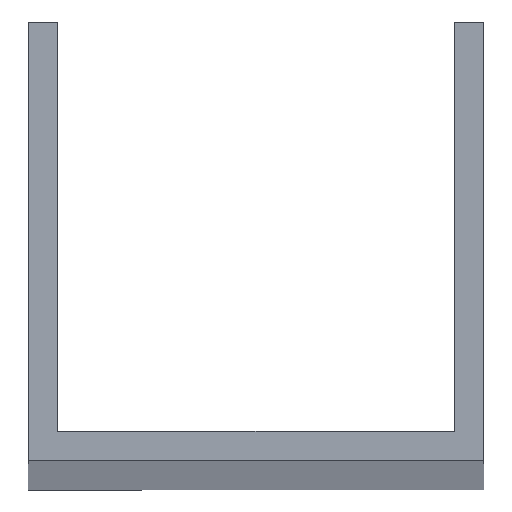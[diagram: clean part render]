
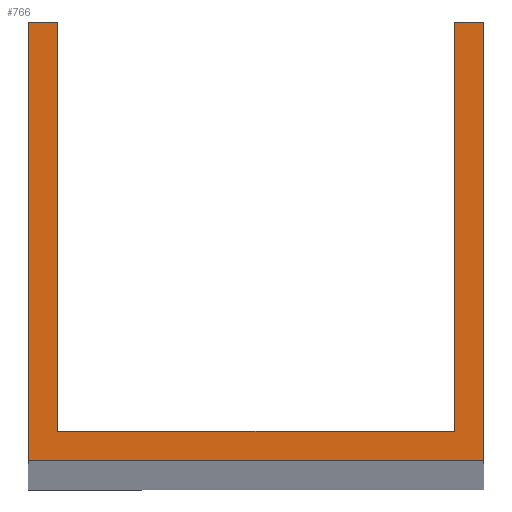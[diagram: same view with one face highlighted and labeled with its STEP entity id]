
A CAD part, top view. The second image highlights one B-rep face of the part: STEP entity #766.
In plain terms, the highlighted planar face has unit normal (0, 0, 1).
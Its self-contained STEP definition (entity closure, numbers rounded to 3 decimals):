
#15 = ORIENTED_EDGE ( 'NONE', *, *, #929, .T. ) ;
#31 = DIRECTION ( 'NONE',  ( 1., 0., 0. ) ) ;
#53 = LINE ( 'NONE', #730, #1069 ) ;
#59 = CARTESIAN_POINT ( 'NONE',  ( -23.5, 52., 1000. ) ) ;
#74 = ORIENTED_EDGE ( 'NONE', *, *, #247, .F. ) ;
#80 = VECTOR ( 'NONE', #582, 1000. ) ;
#96 = CARTESIAN_POINT ( 'NONE',  ( -27., 0., 1000. ) ) ;
#107 = VERTEX_POINT ( 'NONE', #333 ) ;
#113 = CARTESIAN_POINT ( 'NONE',  ( 23.5, 52., 1000. ) ) ;
#153 = VERTEX_POINT ( 'NONE', #59 ) ;
#174 = DIRECTION ( 'NONE',  ( 0., -1., 0. ) ) ;
#176 = ORIENTED_EDGE ( 'NONE', *, *, #295, .F. ) ;
#185 = LINE ( 'NONE', #96, #469 ) ;
#186 = LINE ( 'NONE', #368, #319 ) ;
#188 = DIRECTION ( 'NONE',  ( -1., 0., 0. ) ) ;
#204 = CARTESIAN_POINT ( 'NONE',  ( 27., 0., 1000. ) ) ;
#210 = VECTOR ( 'NONE', #1068, 1000. ) ;
#216 = ORIENTED_EDGE ( 'NONE', *, *, #289, .F. ) ;
#234 = CARTESIAN_POINT ( 'NONE',  ( -27., 52., 1000. ) ) ;
#247 = EDGE_CURVE ( 'NONE', #452, #945, #1050, .T. ) ;
#289 = EDGE_CURVE ( 'NONE', #153, #452, #186, .T. ) ;
#295 = EDGE_CURVE ( 'NONE', #945, #1029, #871, .T. ) ;
#312 = DIRECTION ( 'NONE',  ( 0., 0., 1. ) ) ;
#317 = LINE ( 'NONE', #234, #80 ) ;
#319 = VECTOR ( 'NONE', #174, 1000. ) ;
#333 = CARTESIAN_POINT ( 'NONE',  ( -27., 52., 1000. ) ) ;
#340 = EDGE_CURVE ( 'NONE', #107, #377, #451, .T. ) ;
#368 = CARTESIAN_POINT ( 'NONE',  ( -23.5, 52., 1000. ) ) ;
#371 = VERTEX_POINT ( 'NONE', #884 ) ;
#377 = VERTEX_POINT ( 'NONE', #696 ) ;
#403 = VERTEX_POINT ( 'NONE', #204 ) ;
#412 = VECTOR ( 'NONE', #607, 1000. ) ;
#451 = LINE ( 'NONE', #974, #210 ) ;
#452 = VERTEX_POINT ( 'NONE', #553 ) ;
#469 = VECTOR ( 'NONE', #1046, 1000. ) ;
#479 = PLANE ( 'NONE',  #772 ) ;
#500 = EDGE_CURVE ( 'NONE', #403, #371, #53, .T. ) ;
#523 = CARTESIAN_POINT ( 'NONE',  ( 23.5, 52., 1000. ) ) ;
#535 = CARTESIAN_POINT ( 'NONE',  ( -27., 52., 1000. ) ) ;
#553 = CARTESIAN_POINT ( 'NONE',  ( -23.5, 3.5, 1000. ) ) ;
#582 = DIRECTION ( 'NONE',  ( -1., 0., 0. ) ) ;
#593 = VECTOR ( 'NONE', #634, 1000. ) ;
#607 = DIRECTION ( 'NONE',  ( 1., 0., 0. ) ) ;
#634 = DIRECTION ( 'NONE',  ( 0., 1., 0. ) ) ;
#640 = ORIENTED_EDGE ( 'NONE', *, *, #340, .T. ) ;
#648 = CARTESIAN_POINT ( 'NONE',  ( 0., 0., 1000. ) ) ;
#659 = EDGE_CURVE ( 'NONE', #377, #403, #185, .T. ) ;
#693 = EDGE_LOOP ( 'NONE', ( #216, #726, #640, #797, #783, #15, #176, #74 ) ) ;
#696 = CARTESIAN_POINT ( 'NONE',  ( -27., 0., 1000. ) ) ;
#726 = ORIENTED_EDGE ( 'NONE', *, *, #1038, .T. ) ;
#730 = CARTESIAN_POINT ( 'NONE',  ( 27., 52., 1000. ) ) ;
#766 = ADVANCED_FACE ( 'NONE', ( #955 ), #479, .T. ) ;
#772 = AXIS2_PLACEMENT_3D ( 'NONE', #648, #312, #31 ) ;
#783 = ORIENTED_EDGE ( 'NONE', *, *, #500, .T. ) ;
#789 = CARTESIAN_POINT ( 'NONE',  ( 23.5, 3.5, 1000. ) ) ;
#797 = ORIENTED_EDGE ( 'NONE', *, *, #659, .T. ) ;
#806 = LINE ( 'NONE', #535, #1074 ) ;
#871 = LINE ( 'NONE', #523, #593 ) ;
#884 = CARTESIAN_POINT ( 'NONE',  ( 27., 52., 1000. ) ) ;
#929 = EDGE_CURVE ( 'NONE', #371, #1029, #317, .T. ) ;
#945 = VERTEX_POINT ( 'NONE', #789 ) ;
#955 = FACE_OUTER_BOUND ( 'NONE', #693, .T. ) ;
#957 = CARTESIAN_POINT ( 'NONE',  ( -27., 3.5, 1000. ) ) ;
#974 = CARTESIAN_POINT ( 'NONE',  ( -27., 52., 1000. ) ) ;
#1029 = VERTEX_POINT ( 'NONE', #113 ) ;
#1038 = EDGE_CURVE ( 'NONE', #153, #107, #806, .T. ) ;
#1046 = DIRECTION ( 'NONE',  ( 1., 0., 0. ) ) ;
#1050 = LINE ( 'NONE', #957, #412 ) ;
#1068 = DIRECTION ( 'NONE',  ( 0., -1., 0. ) ) ;
#1069 = VECTOR ( 'NONE', #1083, 1000. ) ;
#1074 = VECTOR ( 'NONE', #188, 1000. ) ;
#1083 = DIRECTION ( 'NONE',  ( 0., 1., 0. ) ) ;
